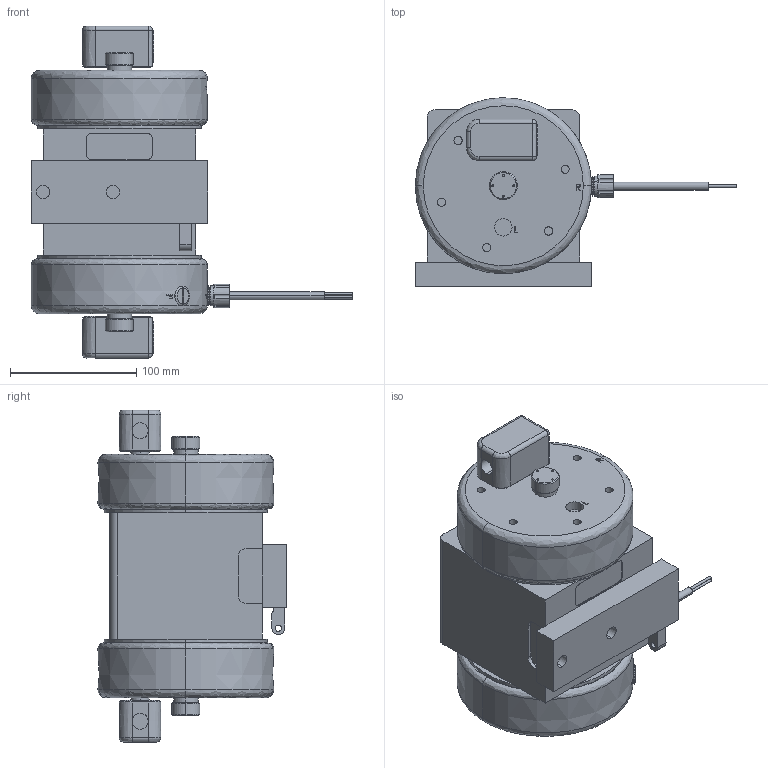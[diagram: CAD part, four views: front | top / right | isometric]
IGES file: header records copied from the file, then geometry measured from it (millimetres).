
Start section: SolidWorks IGES file using analytic representation for surfaces
Global section: file name: \\server\Users\Karen.Bodily\My Documents\PFU Defeatured\PFU030_solid model.IGS; native system: SolidWorks 2012; preprocessor: SolidWorks 2012; author: karen.bodily; date: 130725.091319; units: inch
Bounding box: 255.41 x 149.4 x 263.49 mm (x, y, z)
Volume: 3086051.2 mm3; surface area: 172657.8 mm2
Topology: 1 solids, 5 shells, 1164 faces, 2959 edges, 1942 vertices
Faces by surface type: plane 785, revolution 254, bspline 125
